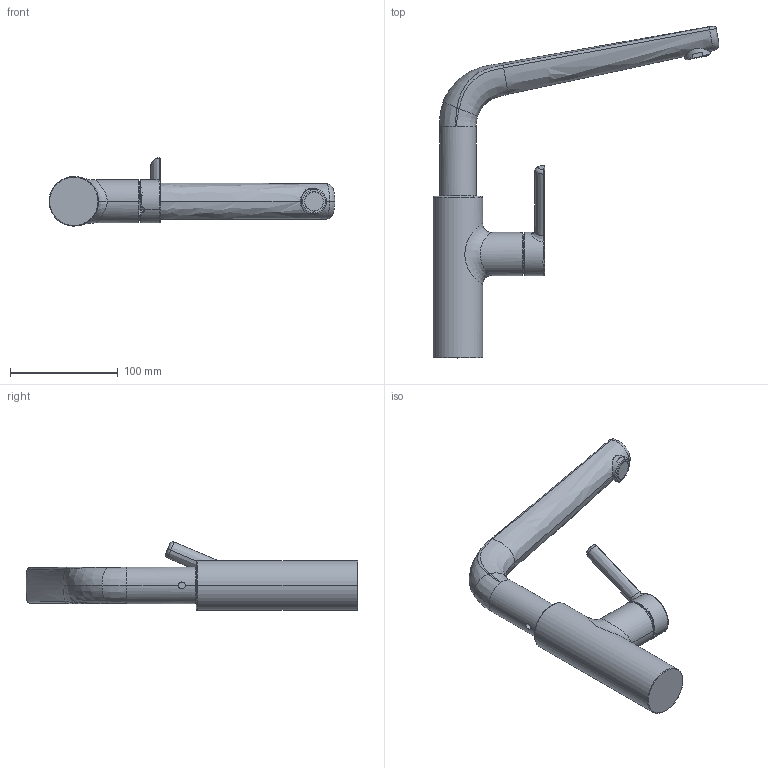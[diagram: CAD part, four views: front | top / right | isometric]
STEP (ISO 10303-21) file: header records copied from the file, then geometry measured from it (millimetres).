
FILE_DESCRIPTION((''),'2;1');
FILE_NAME('10171013','2016-07-21T',('peig'),(''),'PRO/ENGINEER BY PARAMETRIC TECHNOLOGY CORPORATION, 2014000','PRO/ENGINEER BY PARAMETRIC TECHNOLOGY CORPORATION, 2014000','');
FILE_SCHEMA(('CONFIG_CONTROL_DESIGN'));
Length unit declared in the file: millimetre
Products named in the file (1): 10171013
Bounding box: 265.44 x 308.22 x 63.41 mm (x, y, z)
Volume: 590704.1 mm3; surface area: 75611 mm2
Topology: 1 solids, 2 shells, 184 faces, 421 edges, 248 vertices
Faces by surface type: bspline 75, cylinder 40, plane 26, torus 18, cone 13, sphere 10, extrusion 2
Entity records: 12981 total; most frequent: CARTESIAN_POINT 9349, ORIENTED_EDGE 842, DIRECTION 607, EDGE_CURVE 421, AXIS2_PLACEMENT_3D 263, VERTEX_POINT 248, EDGE_LOOP 191, B_SPLINE_CURVE_WITH_KNOTS 188
